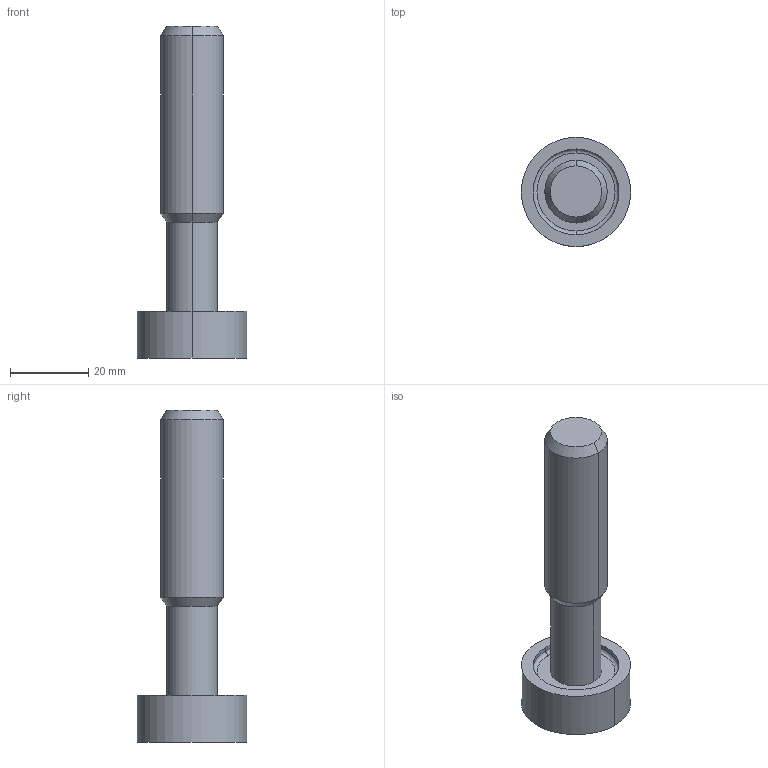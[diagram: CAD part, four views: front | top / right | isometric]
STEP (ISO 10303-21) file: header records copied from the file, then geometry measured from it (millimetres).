
FILE_DESCRIPTION((''),'2;1');
FILE_NAME('DIN4003_82_HEURO','2016-04-14T',('moesset'),(''),'PRO/ENGINEER BY PARAMETRIC TECHNOLOGY CORPORATION, 2015280','PRO/ENGINEER BY PARAMETRIC TECHNOLOGY CORPORATION, 2015280','');
FILE_SCHEMA(('AUTOMOTIVE_DESIGN { 1 0 10303 214 1 1 1 1 }'));
Length unit declared in the file: millimetre
Products named in the file (1): DIN4003_82_HEURO
Bounding box: 28 x 28 x 85 mm (x, y, z)
Volume: 19120.1 mm3; surface area: 6058.8 mm2
Topology: 1 solids, 1 shells, 25 faces, 51 edges, 32 vertices
Faces by surface type: bspline 25
Entity records: 1669 total; most frequent: CARTESIAN_POINT 832, DIRECTION 115, ORIENTED_EDGE 96, EDGE_CURVE 48, AXIS2_PLACEMENT_3D 46, PRESENTATION_STYLE_ASSIGNMENT 37, STYLED_ITEM 37, CIRCLE 34
